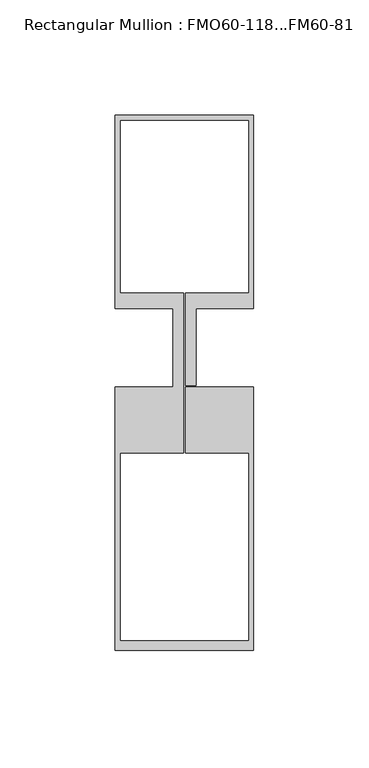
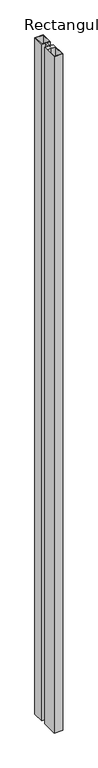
"""IFC4 building model written with IfcOpenShell, lengths in millimetres: member geometry, Rectangular Mullion : FMO60-118...FM60-81."""

from ifc_helpers import new_model, si_unit, frame, origin, place, context, project, spatial, polyline, outline, extrude, source, transform, mapped, element, save


def rectangular_mullion_fmo60_118_fm60_81_b4118012(model_context):
    return source(origin(), model_context, "Body", "SweptSolid", [
        extrude(outline(polyline([(-30.0, -131.009342), (-30.0, -17.0), (-5.0, -17.0), (-5.0, 17.0), (-30.0, 17.0), (-30.0, 100.8477977), (30.0, 100.8477977), (30.0, 17.0), (5.0, 17.0), (5.0, -16.2), (0.5, -16.2), (0.5, 23.8476589), (28.0000412, 23.8476589), (28.0000412, 98.8477977), (-27.9999997, 98.8477977), (-27.9999997, 23.8476589), (-0.5, 23.8476589), (-0.5, -45.5034642), (-28.0, -45.5034642), (-28.0, -127.009342), (28.0, -127.009342), (28.0, -45.5034642), (0.5, -45.5034642), (0.5, -17.0), (30.0, -17.0), (30.0, -131.009342), (-30.0, -131.009342)])), frame((0.0, 0.0, -5000.0), z_axis=(0.0, 0.0, 1.0), x_axis=(1.0, 0.0, 0.0)), (0.0, 0.0, 1.0), 5000.0),
    ])


if __name__ == "__main__":
    model = new_model("IFC4")
    model_context = context("Model", 3, world=origin())
    ifc_project = project(units=[si_unit("LENGTHUNIT", "METRE", prefix="MILLI")], contexts=[model_context])
    site = spatial("IfcSite", under=ifc_project)
    building = spatial("IfcBuilding", under=site)
    placement = place(None, origin())
    rectangular_mullion_fmo60_118_fm60_81_shape = rectangular_mullion_fmo60_118_fm60_81_b4118012(model_context)
    element("IfcMember", 1, ObjectType="Rectangular Mullion : FMO60-118...FM60-81", at=placement, inside=building, context=model_context, shape_type="MappedRepresentation", body=[
        mapped(rectangular_mullion_fmo60_118_fm60_81_shape, transform((0.0, 0.0, 0.0), x_axis=(1.0, 0.0, 0.0), y_axis=(0.0, 1.0, 0.0), z_axis=(0.0, 0.0, 1.0))),
    ])
    save(model, "model.ifc")
